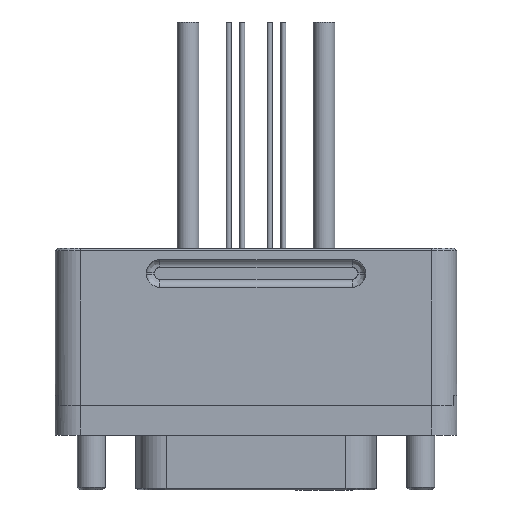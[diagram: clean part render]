
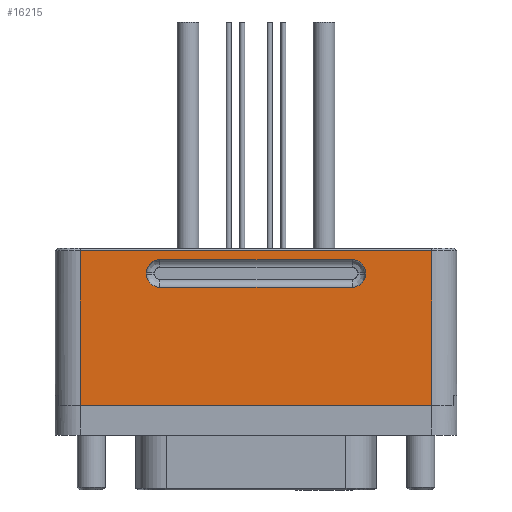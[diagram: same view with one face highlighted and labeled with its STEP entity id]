
A CAD part, front view. The second image highlights one B-rep face of the part: STEP entity #16215.
In plain terms, the highlighted planar face has unit normal (0, -1, 0).
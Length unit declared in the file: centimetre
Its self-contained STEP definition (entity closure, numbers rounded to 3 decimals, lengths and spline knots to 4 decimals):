
#1435 = FACE_OUTER_BOUND ( 'NONE', #11891, .T. ) ;
#1438 = FACE_BOUND ( 'NONE', #11513, .T. ) ;
#1819 = EDGE_CURVE ( 'NONE', #12799, #13053, #14357, .T. ) ;
#1822 = EDGE_CURVE ( 'NONE', #13053, #12822, #14361, .T. ) ;
#1824 = EDGE_CURVE ( 'NONE', #12822, #12821, #14364, .T. ) ;
#1826 = EDGE_CURVE ( 'NONE', #12821, #12820, #14368, .T. ) ;
#1828 = EDGE_CURVE ( 'NONE', #12820, #12850, #14371, .T. ) ;
#1830 = EDGE_CURVE ( 'NONE', #12850, #12987, #14375, .T. ) ;
#1832 = EDGE_CURVE ( 'NONE', #12987, #12923, #14378, .T. ) ;
#1833 = EDGE_CURVE ( 'NONE', #12923, #12799, #14384, .T. ) ;
#1897 = EDGE_CURVE ( 'NONE', #12568, #12571, #14471, .T. ) ;
#1900 = EDGE_CURVE ( 'NONE', #12478, #12571, #14480, .T. ) ;
#1901 = EDGE_CURVE ( 'NONE', #13009, #12478, #14481, .T. ) ;
#1902 = EDGE_CURVE ( 'NONE', #12568, #13009, #14477, .T. ) ;
#3061 = ORIENTED_EDGE ( 'NONE', *, *, #1897, .T. ) ;
#3063 = ORIENTED_EDGE ( 'NONE', *, *, #1900, .F. ) ;
#3065 = ORIENTED_EDGE ( 'NONE', *, *, #1901, .F. ) ;
#3067 = ORIENTED_EDGE ( 'NONE', *, *, #1902, .F. ) ;
#3069 = ORIENTED_EDGE ( 'NONE', *, *, #1832, .T. ) ;
#3071 = ORIENTED_EDGE ( 'NONE', *, *, #1833, .T. ) ;
#3074 = ORIENTED_EDGE ( 'NONE', *, *, #1819, .T. ) ;
#3076 = ORIENTED_EDGE ( 'NONE', *, *, #1822, .T. ) ;
#3078 = ORIENTED_EDGE ( 'NONE', *, *, #1824, .T. ) ;
#3080 = ORIENTED_EDGE ( 'NONE', *, *, #1826, .T. ) ;
#3082 = ORIENTED_EDGE ( 'NONE', *, *, #1828, .T. ) ;
#3084 = ORIENTED_EDGE ( 'NONE', *, *, #1830, .T. ) ;
#3921 = AXIS2_PLACEMENT_3D ( 'NONE', #4328, #4334, #4335 ) ;
#4328 = CARTESIAN_POINT ( 'NONE',  ( 0., -0.6032, 0.2972 ) ) ;
#4329 = PLANE ( 'NONE',  #3921 ) ;
#4334 = DIRECTION ( 'NONE',  ( 0., -1., 0. ) ) ;
#4335 = DIRECTION ( 'NONE',  ( 1., 0., 0. ) ) ;
#11513 = EDGE_LOOP ( 'NONE', ( #3069, #3071, #3074, #3076, #3078, #3080, #3082, #3084 ) ) ;
#11891 = EDGE_LOOP ( 'NONE', ( #3061, #3063, #3065, #3067 ) ) ;
#12478 = VERTEX_POINT ( 'NONE', #15832 ) ;
#12568 = VERTEX_POINT ( 'NONE', #15864 ) ;
#12571 = VERTEX_POINT ( 'NONE', #15860 ) ;
#12799 = VERTEX_POINT ( 'NONE', #15895 ) ;
#12820 = VERTEX_POINT ( 'NONE', #16675 ) ;
#12821 = VERTEX_POINT ( 'NONE', #16676 ) ;
#12822 = VERTEX_POINT ( 'NONE', #16677 ) ;
#12850 = VERTEX_POINT ( 'NONE', #16705 ) ;
#12923 = VERTEX_POINT ( 'NONE', #16770 ) ;
#12987 = VERTEX_POINT ( 'NONE', #16829 ) ;
#13009 = VERTEX_POINT ( 'NONE', #16851 ) ;
#13053 = VERTEX_POINT ( 'NONE', #16895 ) ;
#14084 = CARTESIAN_POINT ( 'NONE',  ( -1.1049, -0.6032, 0.2972 ) ) ;
#14086 = CARTESIAN_POINT ( 'NONE',  ( -0.9728, -0.6032, 1.6231 ) ) ;
#14087 = DIRECTION ( 'NONE',  ( 0., 1., 0. ) ) ;
#14088 = DIRECTION ( 'NONE',  ( -1., 0., 0. ) ) ;
#14092 = DIRECTION ( 'NONE',  ( 0., 0., 1. ) ) ;
#14096 = CARTESIAN_POINT ( 'NONE',  ( 0., -0.6032, 1.7704 ) ) ;
#14097 = CARTESIAN_POINT ( 'NONE',  ( -0.9728, -0.6032, 1.6383 ) ) ;
#14098 = DIRECTION ( 'NONE',  ( 0., 1., 0. ) ) ;
#14099 = DIRECTION ( 'NONE',  ( -1., 0., 0. ) ) ;
#14101 = DIRECTION ( 'NONE',  ( 1., 0., 0. ) ) ;
#14105 = CARTESIAN_POINT ( 'NONE',  ( 1.1049, -0.6033, 0.2972 ) ) ;
#14106 = CARTESIAN_POINT ( 'NONE',  ( 0.9728, -0.6033, 1.6383 ) ) ;
#14107 = DIRECTION ( 'NONE',  ( 0., 1., 0. ) ) ;
#14108 = DIRECTION ( 'NONE',  ( -1., 0., 0. ) ) ;
#14109 = DIRECTION ( 'NONE',  ( -1., 0., 0. ) ) ;
#14110 = DIRECTION ( 'NONE',  ( 0., 0., -1. ) ) ;
#14112 = CARTESIAN_POINT ( 'NONE',  ( 0., -0.6032, 1.491 ) ) ;
#14114 = CARTESIAN_POINT ( 'NONE',  ( 0.9728, -0.6033, 1.6231 ) ) ;
#14115 = DIRECTION ( 'NONE',  ( 0., 1., 0. ) ) ;
#14116 = DIRECTION ( 'NONE',  ( -1., 0., 0. ) ) ;
#14160 = AXIS2_PLACEMENT_3D ( 'NONE', #14086, #14087, #14088 ) ;
#14161 = AXIS2_PLACEMENT_3D ( 'NONE', #14097, #14098, #14099 ) ;
#14162 = AXIS2_PLACEMENT_3D ( 'NONE', #14106, #14107, #14108 ) ;
#14163 = AXIS2_PLACEMENT_3D ( 'NONE', #14114, #14115, #14116 ) ;
#14357 = CIRCLE ( 'NONE', #14160, 0.1321 ) ;
#14361 = LINE ( 'NONE', #14084, #14367 ) ;
#14364 = CIRCLE ( 'NONE', #14161, 0.1321 ) ;
#14367 = VECTOR ( 'NONE', #14092, 100. ) ;
#14368 = LINE ( 'NONE', #14096, #14374 ) ;
#14371 = CIRCLE ( 'NONE', #14162, 0.1321 ) ;
#14374 = VECTOR ( 'NONE', #14101, 100. ) ;
#14375 = LINE ( 'NONE', #14105, #14381 ) ;
#14378 = CIRCLE ( 'NONE', #14163, 0.1321 ) ;
#14381 = VECTOR ( 'NONE', #14110, 100. ) ;
#14384 = LINE ( 'NONE', #14112, #14386 ) ;
#14386 = VECTOR ( 'NONE', #14109, 100. ) ;
#14471 = LINE ( 'NONE', #15017, #14478 ) ;
#14477 = LINE ( 'NONE', #15032, #14486 ) ;
#14478 = VECTOR ( 'NONE', #15025, 100. ) ;
#14480 = LINE ( 'NONE', #15026, #14482 ) ;
#14481 = LINE ( 'NONE', #15036, #14484 ) ;
#14482 = VECTOR ( 'NONE', #15027, 100. ) ;
#14484 = VECTOR ( 'NONE', #15038, 100. ) ;
#14486 = VECTOR ( 'NONE', #15039, 100. ) ;
#15017 = CARTESIAN_POINT ( 'NONE',  ( 0., -0.6032, 0.2972 ) ) ;
#15025 = DIRECTION ( 'NONE',  ( 1., 0., 0. ) ) ;
#15026 = CARTESIAN_POINT ( 'NONE',  ( 1.7704, -0.6033, 0.2972 ) ) ;
#15027 = DIRECTION ( 'NONE',  ( 0., 0., -1. ) ) ;
#15032 = CARTESIAN_POINT ( 'NONE',  ( -1.7704, -0.6032, 0.2972 ) ) ;
#15036 = CARTESIAN_POINT ( 'NONE',  ( 0., -0.6032, 1.8593 ) ) ;
#15038 = DIRECTION ( 'NONE',  ( 1., 0., 0. ) ) ;
#15039 = DIRECTION ( 'NONE',  ( 0., 0., 1. ) ) ;
#15832 = CARTESIAN_POINT ( 'NONE',  ( 1.7704, -0.6033, 1.8593 ) ) ;
#15860 = CARTESIAN_POINT ( 'NONE',  ( 1.7704, -0.6033, 0.2972 ) ) ;
#15864 = CARTESIAN_POINT ( 'NONE',  ( -1.7704, -0.6032, 0.2972 ) ) ;
#15895 = CARTESIAN_POINT ( 'NONE',  ( -0.9728, -0.6032, 1.491 ) ) ;
#16215 = ADVANCED_FACE ( 'NONE', ( #1435, #1438 ), #4329, .T. ) ;
#16675 = CARTESIAN_POINT ( 'NONE',  ( 0.9728, -0.6033, 1.7704 ) ) ;
#16676 = CARTESIAN_POINT ( 'NONE',  ( -0.9728, -0.6032, 1.7704 ) ) ;
#16677 = CARTESIAN_POINT ( 'NONE',  ( -1.1049, -0.6032, 1.6383 ) ) ;
#16705 = CARTESIAN_POINT ( 'NONE',  ( 1.1049, -0.6033, 1.6383 ) ) ;
#16770 = CARTESIAN_POINT ( 'NONE',  ( 0.9728, -0.6033, 1.491 ) ) ;
#16829 = CARTESIAN_POINT ( 'NONE',  ( 1.1049, -0.6033, 1.6231 ) ) ;
#16851 = CARTESIAN_POINT ( 'NONE',  ( -1.7704, -0.6033, 1.8593 ) ) ;
#16895 = CARTESIAN_POINT ( 'NONE',  ( -1.1049, -0.6032, 1.6231 ) ) ;
